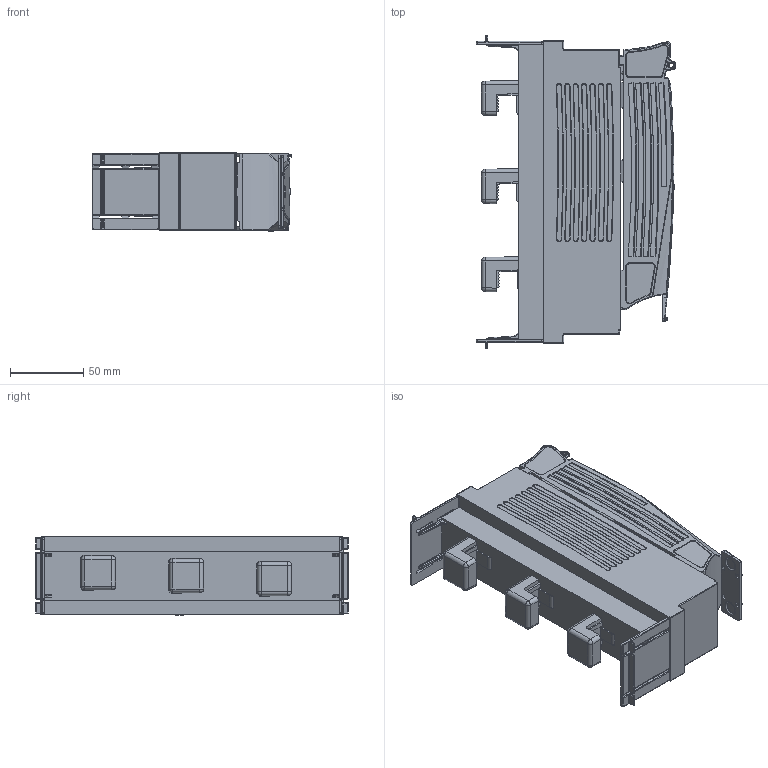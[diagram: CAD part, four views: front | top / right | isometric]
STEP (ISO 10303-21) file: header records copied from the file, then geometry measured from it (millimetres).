
FILE_DESCRIPTION(/* description */ (''),/* implementation_level */ '2;1');
FILE_NAME(/* name */ 'RBP 000 pro-SG - 63-823427-001.stp',/* time_stamp */ '2019-04-10T12:28:57+02:00',/* author */ (''),/* organization */ (''),/* preprocessor_version */ 'ST-DEVELOPER v16',/* originating_system */ 'SIEMENS PLM Software NX 10.0',/* authorisation */ '');
FILE_SCHEMA (('AUTOMOTIVE_DESIGN { 1 0 10303 214 3 1 1 1 }'));
Products named in the file (1): 710_296C318Fqib3
Bounding box: 136.14 x 213 x 53.3 mm (x, y, z)
Volume: 925859 mm3; surface area: 135765.2 mm2
Topology: 1 solids, 2 shells, 2676 faces, 7037 edges, 4262 vertices
Faces by surface type: plane 905, cylinder 776, bspline 536, torus 183, sphere 125, cone 92, extrusion 41, revolution 18
Full cylindrical faces by diameter (mm): 5.795 x6, 12 x3
Entity records: 97967 total; most frequent: CARTESIAN_POINT 34819, ORIENTED_EDGE 13648, DIRECTION 11803, EDGE_CURVE 6824, AXIS2_PLACEMENT_3D 4316, VERTEX_POINT 4227, VECTOR 3153, LINE 3112
